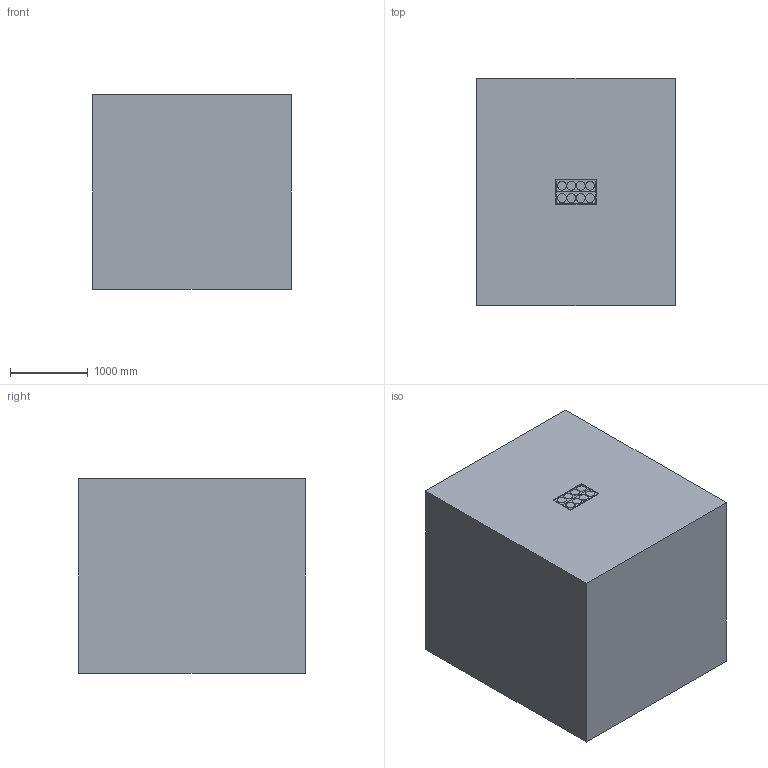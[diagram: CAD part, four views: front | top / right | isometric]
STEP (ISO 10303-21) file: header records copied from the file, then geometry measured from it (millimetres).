
FILE_DESCRIPTION(/* description */ (''),/* implementation_level */ '2;1');
FILE_NAME(/* name */ '120mmfansLargeBottom.step',/* time_stamp */ '2024-09-30T15:09:39-07:00',/* author */ (''),/* organization */ (''),/* preprocessor_version */ 'ST-DEVELOPER v20',/* originating_system */ 'Autodesk Translation Framework v13.20.0.188',/* authorisation */ '');
FILE_SCHEMA (('AUTOMOTIVE_DESIGN { 1 0 10303 214 3 1 1 }'));
Length unit declared in the file: millimetre
Products named in the file (5): BottomDomain120NoGrate; Simplified80Bottom; Component1; 80MMCubeFan; Component11
Assembly tree (11 placements, depth 4):
  BottomDomain120NoGrate
    Simplified80Bottom
      Component1
        80MMCubeFan  x8
    Component11
Bounding box: 2550 x 2920 x 2500 mm (x, y, z)
Volume: 18615618747.1 mm3; surface area: 43436105.8 mm2
Topology: 26 solids, 26 shells, 189 faces, 375 edges, 249 vertices
Faces by surface type: plane 137, cylinder 52
Full cylindrical faces by diameter (mm): 10 x16, 80 x24, 118 x8
Entity records: 2776 total; most frequent: DIRECTION 473, CARTESIAN_POINT 451, ORIENTED_EDGE 414, EDGE_CURVE 207, AXIS2_PLACEMENT_3D 159, LINE 155, VECTOR 155, VERTEX_POINT 137
